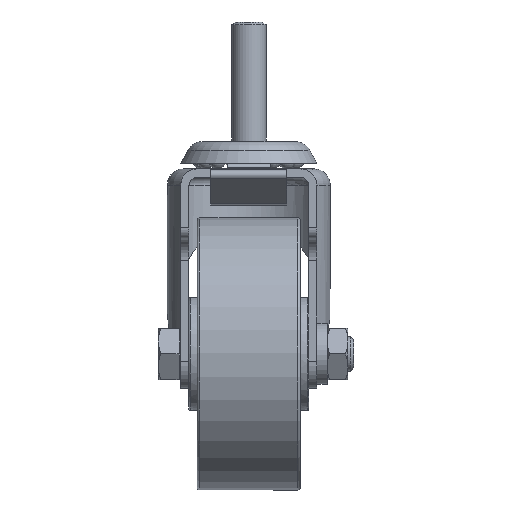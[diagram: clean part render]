
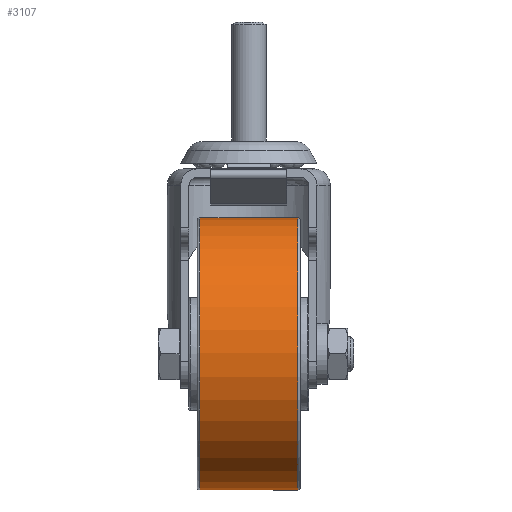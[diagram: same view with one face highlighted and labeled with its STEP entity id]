
A CAD part, front view. The second image highlights one B-rep face of the part: STEP entity #3107.
In plain terms, the highlighted cylindrical face has radius 50 mm (diameter 100 mm), a full revolution.
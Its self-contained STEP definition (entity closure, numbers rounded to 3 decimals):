
#420=CIRCLE('',#3676,50.);
#424=CIRCLE('',#3680,50.);
#425=CIRCLE('',#3682,50.);
#544=CYLINDRICAL_SURFACE('',#3681,50.);
#638=FACE_OUTER_BOUND('',#838,.T.);
#838=EDGE_LOOP('',(#2491,#2492,#2493,#2494,#2495));
#1033=LINE('',#5476,#1214);
#1214=VECTOR('',#4418,50.);
#1464=VERTEX_POINT('',#5465);
#1465=VERTEX_POINT('',#5466);
#1468=VERTEX_POINT('',#5475);
#1829=EDGE_CURVE('',#1464,#1465,#420,.T.);
#1833=EDGE_CURVE('',#1465,#1464,#424,.T.);
#1834=EDGE_CURVE('',#1464,#1468,#1033,.T.);
#1835=EDGE_CURVE('',#1468,#1468,#425,.T.);
#2491=ORIENTED_EDGE('',*,*,#1829,.F.);
#2492=ORIENTED_EDGE('',*,*,#1834,.T.);
#2493=ORIENTED_EDGE('',*,*,#1835,.F.);
#2494=ORIENTED_EDGE('',*,*,#1834,.F.);
#2495=ORIENTED_EDGE('',*,*,#1833,.F.);
#3107=ADVANCED_FACE('',(#638),#544,.T.);
#3676=AXIS2_PLACEMENT_3D('',#5467,#4406,#4407);
#3680=AXIS2_PLACEMENT_3D('',#5473,#4414,#4415);
#3681=AXIS2_PLACEMENT_3D('',#5474,#4416,#4417);
#3682=AXIS2_PLACEMENT_3D('',#5477,#4419,#4420);
#4406=DIRECTION('center_axis',(0.,0.,-1.));
#4407=DIRECTION('ref_axis',(-1.,0.,0.));
#4414=DIRECTION('center_axis',(0.,0.,-1.));
#4415=DIRECTION('ref_axis',(-1.,0.,0.));
#4416=DIRECTION('center_axis',(0.,0.,-1.));
#4417=DIRECTION('ref_axis',(-1.,0.,0.));
#4418=DIRECTION('',(0.,0.,1.));
#4419=DIRECTION('center_axis',(0.,0.,1.));
#4420=DIRECTION('ref_axis',(-1.,0.,0.));
#5465=CARTESIAN_POINT('',(50.,-41.,-37.));
#5466=CARTESIAN_POINT('',(-50.,-41.,-37.));
#5467=CARTESIAN_POINT('Origin',(0.,-41.,-37.));
#5473=CARTESIAN_POINT('Origin',(0.,-41.,-37.));
#5474=CARTESIAN_POINT('Origin',(0.,-41.,0.));
#5475=CARTESIAN_POINT('',(50.,-41.,-1.));
#5476=CARTESIAN_POINT('',(50.,-41.,0.));
#5477=CARTESIAN_POINT('Origin',(0.,-41.,-1.));
